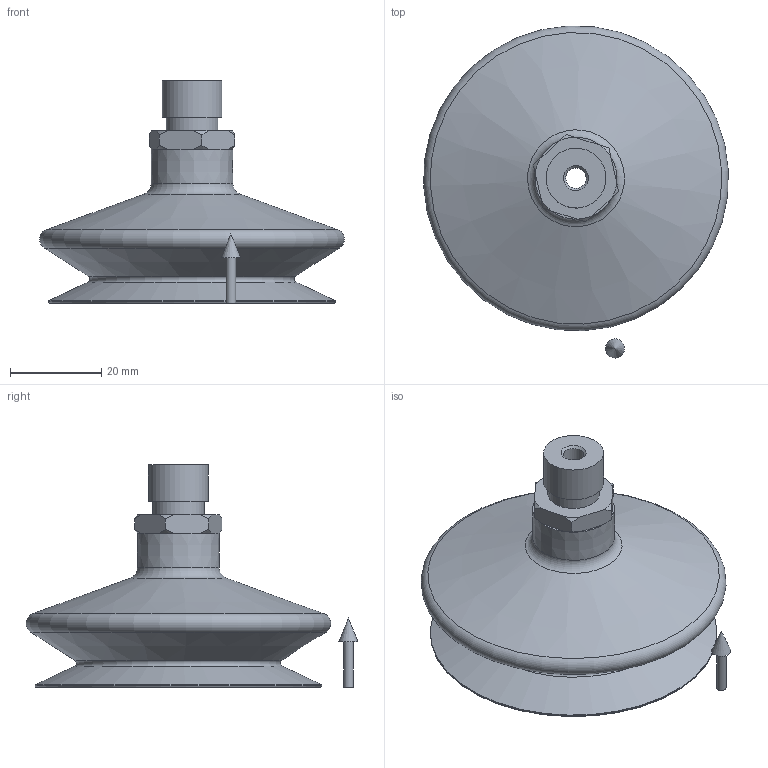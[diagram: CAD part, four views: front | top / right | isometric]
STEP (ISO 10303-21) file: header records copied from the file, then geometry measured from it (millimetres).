
FILE_DESCRIPTION(('STEP AP214'),'1');
FILE_NAME('KIT.08.30.D63.21.stp','2019-05-28T06:11:46',(' '),(' '),'Spatial InterOp 3D',' ',' ');
FILE_SCHEMA(('AUTOMOTIVE_DESIGN { 1 0 10303 214 1 1 1 1 }'));
Length unit declared in the file: millimetre
Products named in the file (3): KIT.08.30.D63.21; CA.08.09.021; CA.08.30.009
Assembly tree (2 placements, depth 2):
  KIT.08.30.D63.21
    CA.08.09.021
    CA.08.30.009
Bounding box: 66.92 x 72.89 x 48.8 mm (x, y, z)
Volume: 23079.7 mm3; surface area: 19795.8 mm2
Topology: 3 solids, 3 shells, 59 faces, 130 edges, 83 vertices
Faces by surface type: cone 24, plane 18, cylinder 10, torus 7
Full cylindrical faces by diameter (mm): 2.1 x1, 4.5 x1, 8 x1, 8.8 x1, 11.3 x1, 12 x1, 13.157 x1, 14.5 x1, 24.5 x1, 63 x1
Entity records: 2142 total; most frequent: CARTESIAN_POINT 468, DIRECTION 242, ORIENTED_EDGE 186, AXIS2_PLACEMENT_3D 112, EDGE_LOOP 98, EDGE_CURVE 93, FACE_OUTER_BOUND 76, VERTEX_POINT 76
